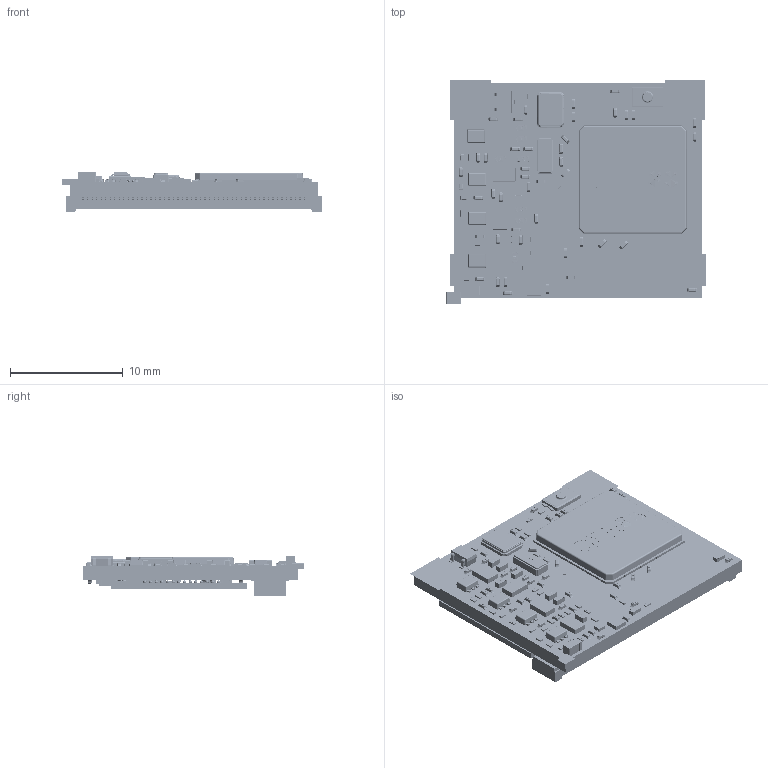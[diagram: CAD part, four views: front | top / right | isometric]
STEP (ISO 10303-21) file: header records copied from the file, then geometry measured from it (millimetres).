
FILE_DESCRIPTION(/* description */ ('PCB Design'),/* implementation_level */ '2;1');
FILE_NAME(/* name */ 'MINI110XB-V1',/* time_stamp */ '2026-08-12T16:25:09+08:00',/* author */ (''),/* organization */ (''),/* preprocessor_version */ 'ST-DEVELOPER v16',/* originating_system */ 'allegro_17.2S053',/* authorisation */ '');
FILE_SCHEMA (('AUTOMOTIVE_DESIGN { 1 0 10303 214 3 1 1 }'));
Length unit declared in the file: millimetre
Products named in the file (47): MINI110XB-V1; BOARD_OUTLINE; COMPONENTS; BGA153_13RX11R5X0R9_2L; C0603; WSON8_8R00X6R00X0R80_T; DFN1X1-4L; R0201; WLCSP-4B-0R8X0R8; C0201; DF40C-100DP-0_4V; IND1R2X2MM; SOT563; HP-C60-S100MIL; BUT3X2; CRY2_3R20X1R50X0R90; R0402; C0402; SOT_323; CRY4_3R20X2R50X0R80; QFN88_9R00X9R00X0R90_T; A3025639-B606-49D8-87C5-9FA25282E8C4; 0; C0603-1; Power pad; User Library-WSON-8; Case; Pad; 3E59452F-ABFF-48A1-AF72-A9F3936F8A65; 677F34B6-DF4C-4A28-84A3-75D1813A5E2A; 4103C97D-EB63-4E83-ACC5-F80EC647EA4C; User Library-User Library-0201_Cap; 7B1E262E-6BAF-4506-873E-E08FD8DB0EBC; Assem1; core; 4E357751-62F2-4C9E-89FE-D179AAC9DFAF; xb-ts-2030-2-x; 0637D9F9-BE46-411F-B9CE-197B637E80A1; CR1005-04021; SC0402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
Assembly tree (164 placements, depth 5):
  MINI110XB-V1
    BOARD_OUTLINE
    COMPONENTS
      BGA153_13RX11R5X0R9_2L
        A3025639-B606-49D8-87C5-9FA25282E8C4
      C0603
        0
        C0603-1
      WSON8_8R00X6R00X0R80_T
        User Library-WSON-8
          Case
          Pad  x8
          Power pad
      DFN1X1-4L
        3E59452F-ABFF-48A1-AF72-A9F3936F8A65
      R0201  x33
        677F34B6-DF4C-4A28-84A3-75D1813A5E2A
      WLCSP-4B-0R8X0R8
        4103C97D-EB63-4E83-ACC5-F80EC647EA4C
      C0201  x61
        User Library-User Library-0201_Cap
      DF40C-100DP-0_4V
        7B1E262E-6BAF-4506-873E-E08FD8DB0EBC
      IND1R2X2MM  x4
        Assem1
      SOT563  x4
        4E357751-62F2-4C9E-89FE-D179AAC9DFAF
      HP-C60-S100MIL  x2
      BUT3X2
        xb-ts-2030-2-x
      CRY2_3R20X1R50X0R90
        0637D9F9-BE46-411F-B9CE-197B637E80A1
      R0402  x4
        0
        CR1005-04021
      C0402  x12
        0
        SC0402
      SOT_323
        PTSP0003JA-A
      CRY4_3R20X2R50X0R80
        0
        3225-1
      QFN88_9R00X9R00X0R90_T
        90959E51-4E6F-4EC5-9E3A-B49B355A7023
  core
  Pad
Bounding box: 22.93 x 19.78 x 3.55 mm (x, y, z)
Volume: 201.8 mm3; surface area: 2750.6 mm2
Topology: 619 solids, 672 shells, 29129 faces, 74852 edges, 48206 vertices
Faces by surface type: plane 13541, bspline 11299, cylinder 2965, sphere 1292, torus 20, cone 12
Entity records: 188279 total; most frequent: CARTESIAN_POINT 49819, ORIENTED_EDGE 26057, DIRECTION 21083, EDGE_CURVE 13035, VECTOR 9232, LINE 9232, VERTEX_POINT 8715, AXIS2_PLACEMENT_3D 6100
